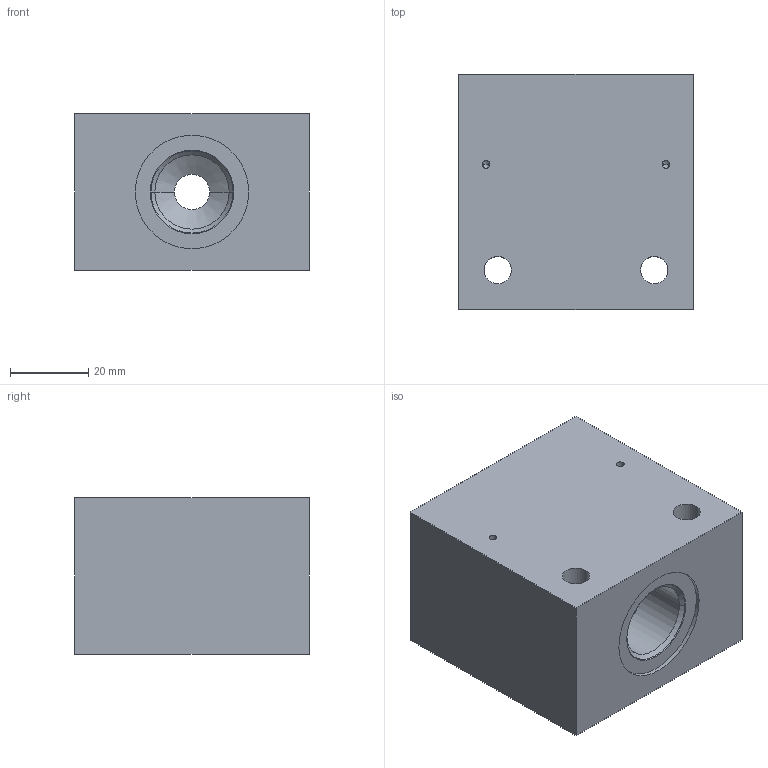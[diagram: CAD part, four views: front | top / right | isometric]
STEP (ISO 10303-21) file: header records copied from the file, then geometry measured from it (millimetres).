
FILE_DESCRIPTION((''),'2;1');
FILE_NAME('19569100','2023-10-11T',('l.soukupova'),(''),'PRO/ENGINEER BY PARAMETRIC TECHNOLOGY CORPORATION, 2015440','PRO/ENGINEER BY PARAMETRIC TECHNOLOGY CORPORATION, 2015440','');
FILE_SCHEMA(('AUTOMOTIVE_DESIGN { 1 0 10303 214 1 1 1 1 }'));
Length unit declared in the file: millimetre
Products named in the file (1): 19569100
Bounding box: 60 x 60 x 40 mm (x, y, z)
Volume: 121693.7 mm3; surface area: 24790.6 mm2
Topology: 1 solids, 4 shells, 64 faces, 237 edges, 204 vertices
Faces by surface type: cylinder 32, cone 20, plane 12
Entity records: 3400 total; most frequent: CARTESIAN_POINT 497, DIRECTION 443, ORIENTED_EDGE 276, PRESENTATION_STYLE_ASSIGNMENT 259, STYLED_ITEM 253, CURVE_STYLE 249, VECTOR 151, LINE 151
